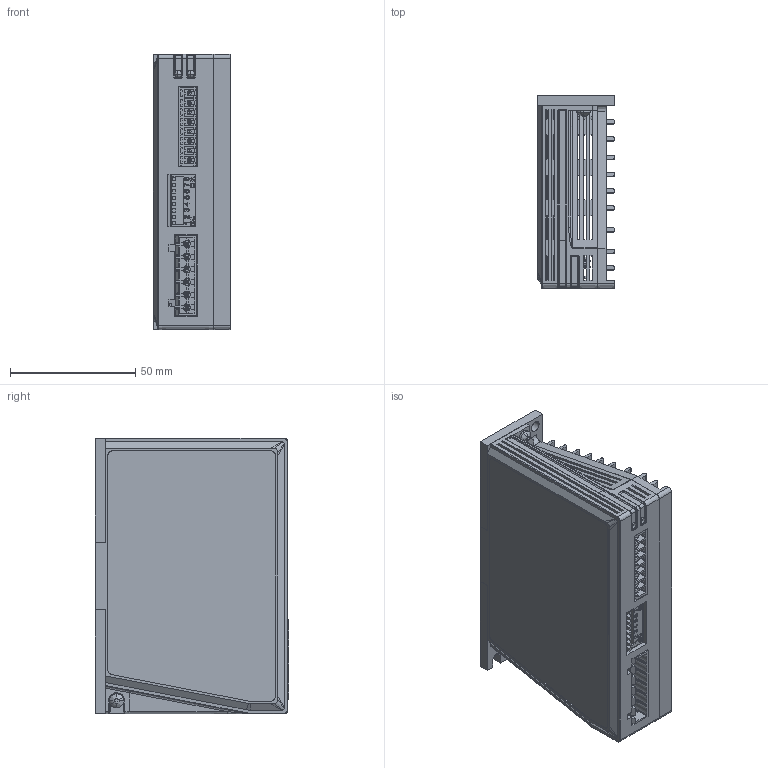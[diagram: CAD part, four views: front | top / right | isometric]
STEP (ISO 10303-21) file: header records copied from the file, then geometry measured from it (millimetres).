
FILE_DESCRIPTION(/* description */ (''),/* implementation_level */ '2;1');
FILE_NAME(/* name */ 'DP3L-4~1',/* time_stamp */ '2022-02-26T17:07:35+08:00',/* author */ (''),/* organization */ (''),/* preprocessor_version */ 'ST-DEVELOPER v15',/* originating_system */ '',/* authorisation */ '');
FILE_SCHEMA (('AUTOMOTIVE_DESIGN'));
Products named in the file (1): Document
Bounding box: 31 x 77.29 x 110 mm (x, y, z)
Surface area: 66973.7 mm2 (no closed solid volume)
Topology: 0 solids, 3374 shells, 3374 faces, 19392 edges, 19384 vertices
Faces by surface type: plane 2950, bspline 424
Entity records: 179474 total; most frequent: CARTESIAN_POINT 74087, ORIENTED_EDGE 19387, EDGE_CURVE 19387, VERTEX_POINT 19387, B_SPLINE_CURVE_WITH_KNOTS 17771, EDGE_LOOP 3543, PRESENTATION_LAYER_ASSIGNMENT 3374, SHELL_BASED_SURFACE_MODEL 3374
